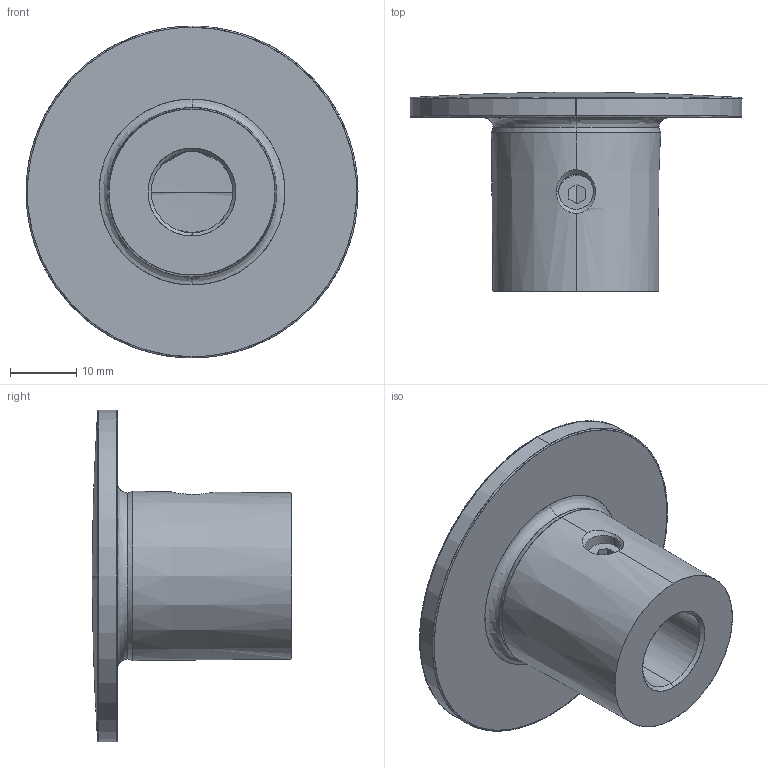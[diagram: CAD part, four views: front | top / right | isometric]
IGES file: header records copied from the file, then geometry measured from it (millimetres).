
Start section: SolidWorks IGES file using analytic representation for surfaces
Global section: file name: G:\Projects\New project\For Marketing\IGS\IGS\2015-12-18\2380621VW.IGS; native system: SolidWorks 2010; preprocessor: SolidWorks 2010; author: linda; date: 151214.160632; units: millimetre
Bounding box: 50 x 30 x 50 mm (x, y, z)
Surface area: 7334.6 mm2 (no closed solid volume)
Topology: 0 solids, 0 shells, 31 faces, 479 edges, 478 vertices
Faces by surface type: bspline 17, revolution 14
